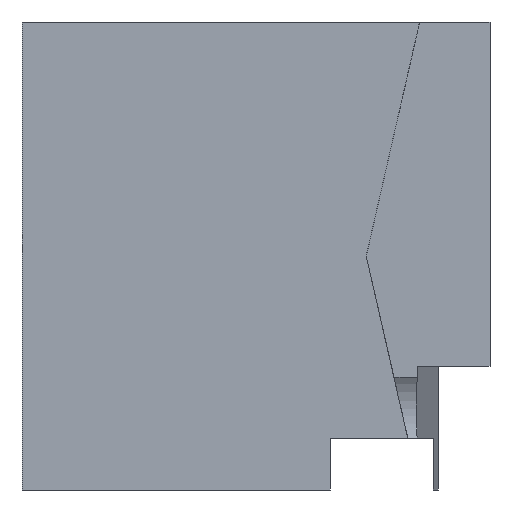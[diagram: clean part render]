
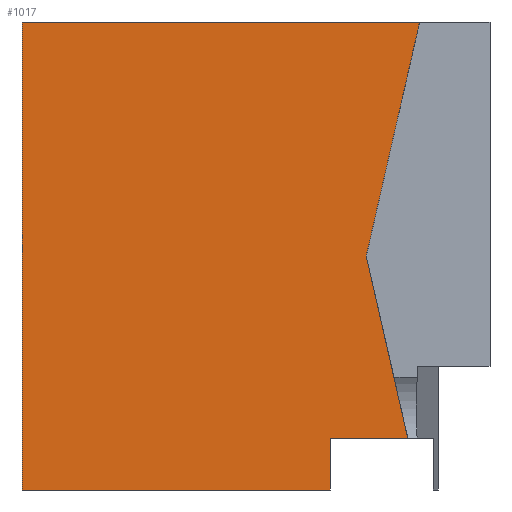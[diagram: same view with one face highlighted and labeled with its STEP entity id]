
A CAD part, left-side view. The second image highlights one B-rep face of the part: STEP entity #1017.
In plain terms, the highlighted planar face has unit normal (-1, 0, 0).
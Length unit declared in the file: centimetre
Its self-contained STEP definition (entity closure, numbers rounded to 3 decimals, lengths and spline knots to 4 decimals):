
#3 = VECTOR ( 'NONE', #1237, 100. ) ;
#5 = ORIENTED_EDGE ( 'NONE', *, *, #711, .F. ) ;
#10 = CARTESIAN_POINT ( 'NONE',  ( 0., 264.3406, 500. ) ) ;
#15 = DIRECTION ( 'NONE',  ( 0., -1., 0. ) ) ;
#17 = VECTOR ( 'NONE', #309, 100. ) ;
#56 = VECTOR ( 'NONE', #720, 100. ) ;
#88 = LINE ( 'NONE', #1313, #3 ) ;
#134 = EDGE_CURVE ( 'NONE', #926, #228, #722, .T. ) ;
#170 = CARTESIAN_POINT ( 'NONE',  ( 0., 1000., 0. ) ) ;
#222 = CARTESIAN_POINT ( 'NONE',  ( 0., 264.3406, 500. ) ) ;
#228 = VERTEX_POINT ( 'NONE', #493 ) ;
#251 = FACE_OUTER_BOUND ( 'NONE', #498, .T. ) ;
#297 = CARTESIAN_POINT ( 'NONE',  ( 0., 1000., 1000. ) ) ;
#301 = ORIENTED_EDGE ( 'NONE', *, *, #134, .F. ) ;
#306 = ORIENTED_EDGE ( 'NONE', *, *, #1230, .F. ) ;
#309 = DIRECTION ( 'NONE',  ( 0., -1., 0. ) ) ;
#314 = LINE ( 'NONE', #222, #472 ) ;
#358 = CARTESIAN_POINT ( 'NONE',  ( 0., 150.4188, 1000. ) ) ;
#376 = VERTEX_POINT ( 'NONE', #522 ) ;
#388 = VERTEX_POINT ( 'NONE', #10 ) ;
#439 = PLANE ( 'NONE',  #1298 ) ;
#461 = DIRECTION ( 'NONE',  ( 0., 0., -1. ) ) ;
#469 = VECTOR ( 'NONE', #691, 100. ) ;
#472 = VECTOR ( 'NONE', #960, 100. ) ;
#493 = CARTESIAN_POINT ( 'NONE',  ( 0., 341.3866, 0. ) ) ;
#498 = EDGE_LOOP ( 'NONE', ( #1349, #1269, #306, #5, #922, #573, #301 ) ) ;
#521 = CARTESIAN_POINT ( 'NONE',  ( 0., 1000., 1000. ) ) ;
#522 = CARTESIAN_POINT ( 'NONE',  ( 0., 175.636, 110.678 ) ) ;
#569 = EDGE_CURVE ( 'NONE', #1244, #228, #1255, .T. ) ;
#573 = ORIENTED_EDGE ( 'NONE', *, *, #569, .T. ) ;
#683 = EDGE_CURVE ( 'NONE', #388, #376, #314, .T. ) ;
#691 = DIRECTION ( 'NONE',  ( 0., 0., -1. ) ) ;
#692 = VECTOR ( 'NONE', #786, 100. ) ;
#711 = EDGE_CURVE ( 'NONE', #1084, #1347, #774, .T. ) ;
#720 = DIRECTION ( 'NONE',  ( 0., 0., -1. ) ) ;
#722 = LINE ( 'NONE', #1354, #469 ) ;
#728 = CARTESIAN_POINT ( 'NONE',  ( 0., 1000., 0. ) ) ;
#760 = CARTESIAN_POINT ( 'NONE',  ( 0., 1000., 1000. ) ) ;
#774 = LINE ( 'NONE', #521, #1243 ) ;
#780 = EDGE_CURVE ( 'NONE', #376, #926, #88, .T. ) ;
#786 = DIRECTION ( 'NONE',  ( 0., 0.222, -0.975 ) ) ;
#878 = CARTESIAN_POINT ( 'NONE',  ( 0., 1000., 1000. ) ) ;
#922 = ORIENTED_EDGE ( 'NONE', *, *, #982, .T. ) ;
#926 = VERTEX_POINT ( 'NONE', #1276 ) ;
#947 = LINE ( 'NONE', #297, #56 ) ;
#960 = DIRECTION ( 'NONE',  ( 0., -0.222, -0.975 ) ) ;
#982 = EDGE_CURVE ( 'NONE', #1084, #1244, #947, .T. ) ;
#1017 = ADVANCED_FACE ( 'NONE', ( #251 ), #439, .F. ) ;
#1084 = VERTEX_POINT ( 'NONE', #878 ) ;
#1202 = DIRECTION ( 'NONE',  ( 1., 0., 0. ) ) ;
#1230 = EDGE_CURVE ( 'NONE', #1347, #388, #1315, .T. ) ;
#1237 = DIRECTION ( 'NONE',  ( 0., 1., 0. ) ) ;
#1243 = VECTOR ( 'NONE', #15, 100. ) ;
#1244 = VERTEX_POINT ( 'NONE', #170 ) ;
#1250 = CARTESIAN_POINT ( 'NONE',  ( 0., 150.4188, 1000. ) ) ;
#1255 = LINE ( 'NONE', #728, #17 ) ;
#1269 = ORIENTED_EDGE ( 'NONE', *, *, #683, .F. ) ;
#1276 = CARTESIAN_POINT ( 'NONE',  ( 0., 341.3866, 110.678 ) ) ;
#1298 = AXIS2_PLACEMENT_3D ( 'NONE', #760, #1202, #461 ) ;
#1313 = CARTESIAN_POINT ( 'NONE',  ( 0., 121.2329, 110.678 ) ) ;
#1315 = LINE ( 'NONE', #358, #692 ) ;
#1347 = VERTEX_POINT ( 'NONE', #1250 ) ;
#1349 = ORIENTED_EDGE ( 'NONE', *, *, #780, .F. ) ;
#1354 = CARTESIAN_POINT ( 'NONE',  ( 0., 341.3866, 0. ) ) ;
